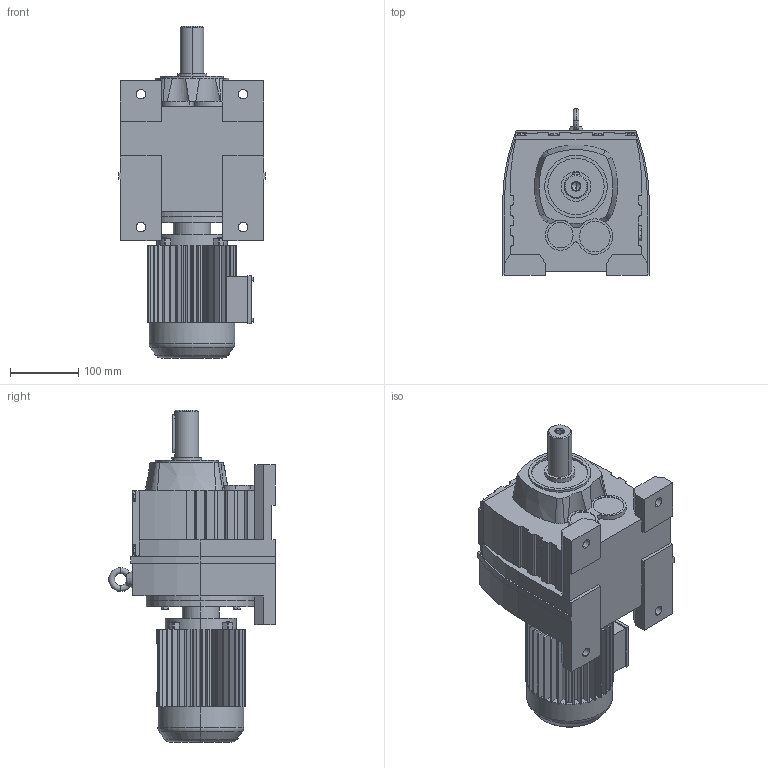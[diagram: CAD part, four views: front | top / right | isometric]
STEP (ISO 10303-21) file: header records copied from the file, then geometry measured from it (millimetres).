
FILE_DESCRIPTION(('Open CASCADE Model'),'2;1');
FILE_NAME('Open CASCADE Shape Model','2021-07-13T16:47:37',('Author'),( 'Open CASCADE'),'Open CASCADE STEP processor 6.3','Open CASCADE 6.3' ,'Unknown');
FILE_SCHEMA(('AUTOMOTIVE_DESIGN_CC2 { 1 2 10303 214 -1 1 5 4 }'));
Length unit declared in the file: millimetre
Products named in the file (3): 1_R67-Y63S; R37‵167_67.step; 萇儂_160_Y63S.step
Assembly tree (2 placements, depth 2):
  1_R67-Y63S
    R37‵167_67.step
    萇儂_160_Y63S.step
Bounding box: 215 x 244.5 x 487 mm (x, y, z)
Volume: 9564851.5 mm3; surface area: 522759.3 mm2
Topology: 2 solids, 2 shells, 749 faces, 1997 edges, 1290 vertices
Faces by surface type: plane 532, cylinder 187, cone 20, torus 10
Entity records: 52018 total; most frequent: CARTESIAN_POINT 13887, DIRECTION 6654, ORIENTED_EDGE 3990, PCURVE 3990, DEFINITIONAL_REPRESENTATION 3990, LINE 3744, VECTOR 3744, EDGE_CURVE 1995
